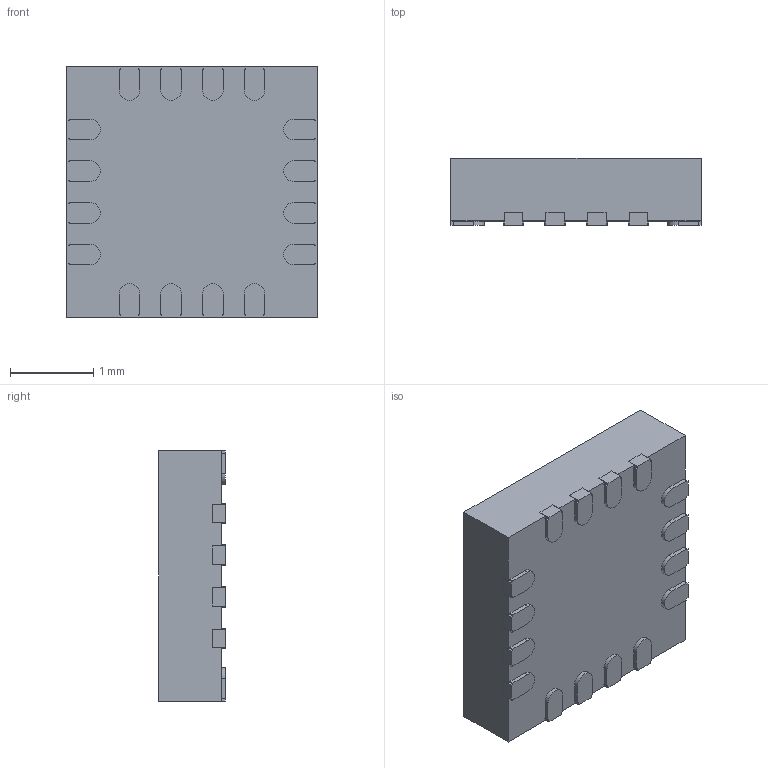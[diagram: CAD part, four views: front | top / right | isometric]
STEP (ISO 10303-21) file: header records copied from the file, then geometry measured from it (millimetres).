
FILE_DESCRIPTION (( 'STEP AP214' ), '1' );
FILE_NAME ('ADA4351-2ACPZ-R7.STEP', '2025-07-07T03:02:21', ( '' ), ( '' ), 'SwSTEP 2.0', 'SolidWorks 2021', '' );
FILE_SCHEMA (( 'AUTOMOTIVE_DESIGN' ));
Length unit declared in the file: millimetre
Products named in the file (1): ADA4351-2ACPZ-R7
Bounding box: 3 x 0.8 x 3 mm (x, y, z)
Volume: 6.8 mm3; surface area: 34.3 mm2
Topology: 18 solids, 18 shells, 309 faces, 816 edges, 544 vertices
Faces by surface type: plane 265, cylinder 44
Entity records: 9625 total; most frequent: CARTESIAN_POINT 1670, ORIENTED_EDGE 1632, DIRECTION 1524, EDGE_CURVE 816, VECTOR 728, LINE 728, VERTEX_POINT 544, AXIS2_PLACEMENT_3D 398
